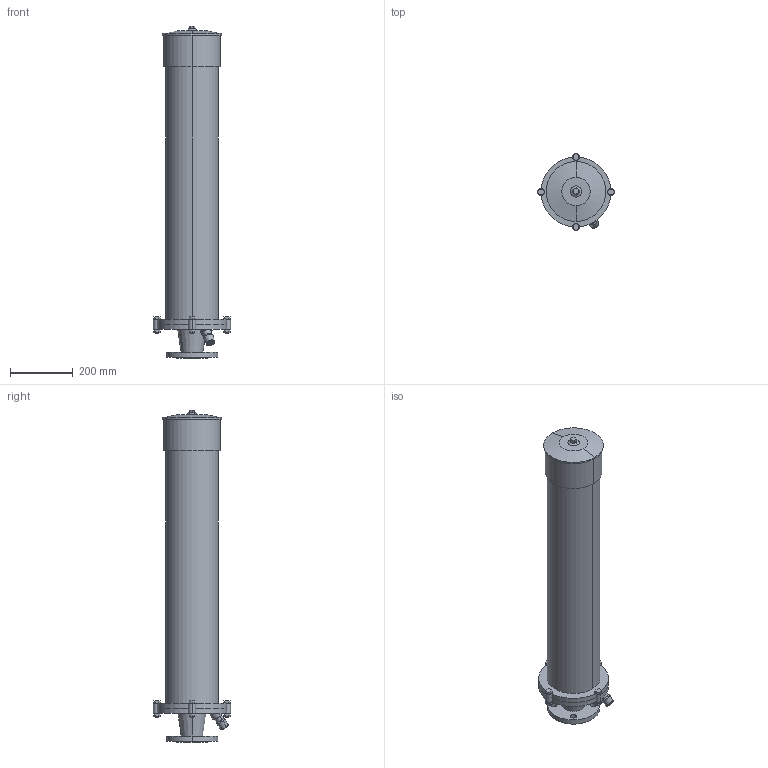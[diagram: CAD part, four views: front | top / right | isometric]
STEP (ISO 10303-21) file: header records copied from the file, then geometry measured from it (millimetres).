
FILE_DESCRIPTION(('STEP AP214'),'1');
FILE_NAME('S:/EK/USER/CAT6/3DHomepage/9822/9822-PN16-DN50-1055.STP','2012-04-26T08:01:38',(' '),(' '),'Spatial InterOp 3D',' ',' ');
FILE_SCHEMA(('automotive_design'));
Length unit declared in the file: millimetre
Products named in the file (37): 3D-Objekt
Bounding box: 245 x 245 x 1055 mm (x, y, z)
Volume: 22686794.7 mm3; surface area: 1012362.2 mm2
Topology: 37 solids, 37 shells, 196 faces, 368 edges, 244 vertices
Faces by surface type: plane 126, cylinder 54, cone 12, torus 4
Entity records: 7369 total; most frequent: DIRECTION 974, CARTESIAN_POINT 845, ORIENTED_EDGE 736, AXIS2_PLACEMENT_3D 373, EDGE_CURVE 368, VERTEX_POINT 244, STYLED_ITEM 233, PRESENTATION_STYLE_ASSIGNMENT 233
